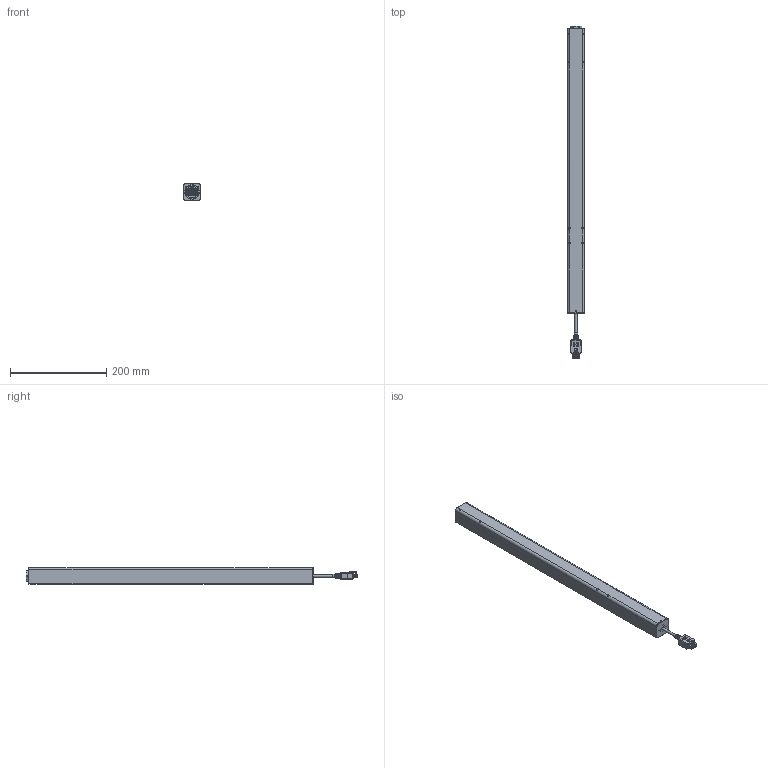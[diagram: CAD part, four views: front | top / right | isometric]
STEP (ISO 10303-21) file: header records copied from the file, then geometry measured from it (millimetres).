
FILE_DESCRIPTION(/* description */ ('Unknown'),/* implementation_level */ '2;1');
FILE_NAME(/* name */ '903.02003_00-Eingefahren',/* time_stamp */ '2022-02-03T11:56:03+01:00',/* author */ ('Unknown'),/* organization */ ('Unknown'),/* preprocessor_version */ 'ST-DEVELOPER v18.1',/* originating_system */ 'Solid Edge',/* authorisation */ 'Unknown');
FILE_SCHEMA (('AUTOMOTIVE_DESIGN {1 0 10303 214 3 1 1}'));
Products named in the file (9): 903.02003; 142.00014; 119.00450; 122.00005; 123.00110; 125.00051; 128.00025; Kabel Molex_kurz; 142.00275
Assembly tree (13 placements, depth 2):
  903.02003
    142.00014  x4
    119.00450
    122.00005
    123.00110
    125.00051
    128.00025  x2
    Kabel Molex_kurz
    142.00275  x2
Bounding box: 35 x 691.5 x 35 mm (x, y, z)
Volume: 350093.7 mm3; surface area: 221848 mm2
Topology: 13 solids, 13 shells, 2720 faces, 7570 edges, 4949 vertices
Faces by surface type: plane 1815, cylinder 650, bspline 98, torus 88, cone 53, sphere 16
Full cylindrical faces by diameter (mm): 1.25 x2, 2.459 x2, 2.6 x10, 3 x2, 4 x12, 4.134 x6, 5 x1, 6.647 x1, 8.376 x2, 17.3 x1, 19 x1, 20.8 x3, 21 x2, 25 x2, 30 x2
Entity records: 58085 total; most frequent: CARTESIAN_POINT 12725, ORIENTED_EDGE 8808, DIRECTION 8271, EDGE_CURVE 4404, LINE 3143, VECTOR 3143, VERTEX_POINT 2917, AXIS2_PLACEMENT_3D 2564
